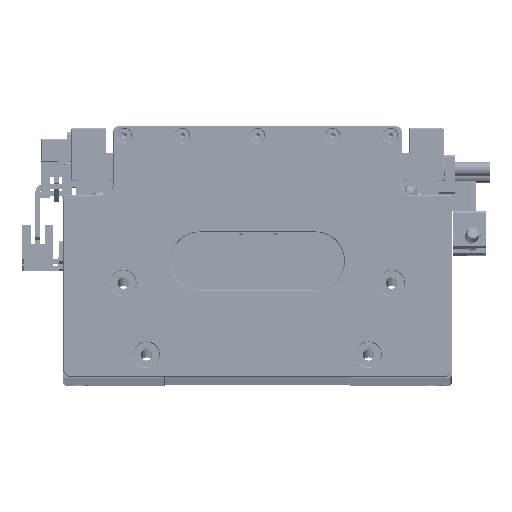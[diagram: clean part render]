
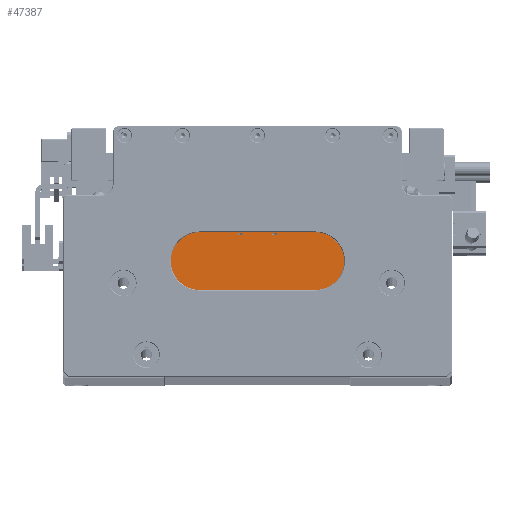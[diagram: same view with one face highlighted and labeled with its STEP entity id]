
A CAD part, top view. The second image highlights one B-rep face of the part: STEP entity #47387.
In plain terms, the highlighted planar face has unit normal (0, 0, 1).
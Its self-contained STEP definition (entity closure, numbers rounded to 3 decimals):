
#328 = ORIENTED_EDGE ( 'NONE', *, *, #107662, .T. ) ;
#2437 = DIRECTION ( 'NONE',  ( 0., 0., -1. ) ) ;
#5915 = CARTESIAN_POINT ( 'NONE',  ( 0., 69., 90. ) ) ;
#6022 = CARTESIAN_POINT ( 'NONE',  ( -45., 61.2, 90. ) ) ;
#6844 = DIRECTION ( 'NONE',  ( 0., -1., 0. ) ) ;
#7821 = VERTEX_POINT ( 'NONE', #141478 ) ;
#10877 = DIRECTION ( 'NONE',  ( 1., 0., 0. ) ) ;
#15269 = LINE ( 'NONE', #59637, #98183 ) ;
#17312 = DIRECTION ( 'NONE',  ( -1., 0., 0. ) ) ;
#17320 = DIRECTION ( 'NONE',  ( 1., 0., 0. ) ) ;
#18909 = CARTESIAN_POINT ( 'NONE',  ( 33.5, 69.2, 90. ) ) ;
#19331 = LINE ( 'NONE', #18909, #105820 ) ;
#19674 = VERTEX_POINT ( 'NONE', #66969 ) ;
#20775 = CARTESIAN_POINT ( 'NONE',  ( -45., 61.2, 90. ) ) ;
#23666 = ORIENTED_EDGE ( 'NONE', *, *, #31345, .T. ) ;
#23932 = VECTOR ( 'NONE', #139195, 1000. ) ;
#25878 = ORIENTED_EDGE ( 'NONE', *, *, #84703, .T. ) ;
#28727 = VECTOR ( 'NONE', #136881, 1000. ) ;
#31345 = EDGE_CURVE ( 'NONE', #7821, #56084, #19331, .T. ) ;
#33893 = VERTEX_POINT ( 'NONE', #39258 ) ;
#33963 = CARTESIAN_POINT ( 'NONE',  ( 45., 61.2, 90. ) ) ;
#34202 = CARTESIAN_POINT ( 'NONE',  ( 0., 61.2, 90. ) ) ;
#35052 = AXIS2_PLACEMENT_3D ( 'NONE', #141288, #84885, #17320 ) ;
#36145 = AXIS2_PLACEMENT_3D ( 'NONE', #146115, #78381, #10877 ) ;
#38036 = LINE ( 'NONE', #74312, #67951 ) ;
#39258 = CARTESIAN_POINT ( 'NONE',  ( -8.75, 61.2, 90. ) ) ;
#40792 = ORIENTED_EDGE ( 'NONE', *, *, #113623, .T. ) ;
#44246 = EDGE_CURVE ( 'NONE', #77639, #7821, #56210, .T. ) ;
#44300 = CARTESIAN_POINT ( 'NONE',  ( -33.5, 69., 90. ) ) ;
#44770 = VERTEX_POINT ( 'NONE', #117673 ) ;
#45580 = VECTOR ( 'NONE', #96150, 1000. ) ;
#47387 = ADVANCED_FACE ( 'NONE', ( #106384, #140056, #109911 ), #129893, .T. ) ;
#48499 = ORIENTED_EDGE ( 'NONE', *, *, #106011, .T. ) ;
#48895 = VERTEX_POINT ( 'NONE', #116096 ) ;
#50062 = VECTOR ( 'NONE', #17312, 1000. ) ;
#51178 = CARTESIAN_POINT ( 'NONE',  ( 8.75, 61.2, 90. ) ) ;
#52416 = EDGE_LOOP ( 'NONE', ( #48499, #328 ) ) ;
#52907 = DIRECTION ( 'NONE',  ( 0., 1., 0. ) ) ;
#53278 = VECTOR ( 'NONE', #64453, 1000. ) ;
#53870 = LINE ( 'NONE', #138683, #23932 ) ;
#56084 = VERTEX_POINT ( 'NONE', #62981 ) ;
#56210 = LINE ( 'NONE', #34202, #142838 ) ;
#59637 = CARTESIAN_POINT ( 'NONE',  ( 45., 61.2, 90. ) ) ;
#59809 = ORIENTED_EDGE ( 'NONE', *, *, #138529, .F. ) ;
#60499 = VERTEX_POINT ( 'NONE', #44300 ) ;
#61063 = VECTOR ( 'NONE', #99662, 1000. ) ;
#62233 = LINE ( 'NONE', #125530, #28727 ) ;
#62981 = CARTESIAN_POINT ( 'NONE',  ( 33.5, 69., 90. ) ) ;
#63340 = VERTEX_POINT ( 'NONE', #51178 ) ;
#64453 = DIRECTION ( 'NONE',  ( -1., 0., 0. ) ) ;
#66280 = ORIENTED_EDGE ( 'NONE', *, *, #108068, .T. ) ;
#66969 = CARTESIAN_POINT ( 'NONE',  ( -6.25, 61.2, 90. ) ) ;
#67334 = CARTESIAN_POINT ( 'NONE',  ( -45., 29., 90. ) ) ;
#67951 = VECTOR ( 'NONE', #6844, 1000. ) ;
#69818 = EDGE_LOOP ( 'NONE', ( #59809, #73336, #23666, #66280, #119523, #40792, #84981, #93753 ) ) ;
#69887 = CARTESIAN_POINT ( 'NONE',  ( -7.5, 61.2, 90. ) ) ;
#70965 = DIRECTION ( 'NONE',  ( 0., -1., 0. ) ) ;
#73336 = ORIENTED_EDGE ( 'NONE', *, *, #44246, .T. ) ;
#73922 = EDGE_CURVE ( 'NONE', #60499, #120775, #62233, .T. ) ;
#74312 = CARTESIAN_POINT ( 'NONE',  ( -45., 69.2, 90. ) ) ;
#77639 = VERTEX_POINT ( 'NONE', #33963 ) ;
#78381 = DIRECTION ( 'NONE',  ( 0., 0., -1. ) ) ;
#80045 = LINE ( 'NONE', #6022, #50062 ) ;
#80998 = CARTESIAN_POINT ( 'NONE',  ( 6.25, 61.2, 90. ) ) ;
#81299 = DIRECTION ( 'NONE',  ( 1., 0., 0. ) ) ;
#83076 = CIRCLE ( 'NONE', #98084, 1.25 ) ;
#84009 = CIRCLE ( 'NONE', #36145, 1.25 ) ;
#84703 = EDGE_CURVE ( 'NONE', #33893, #19674, #83076, .T. ) ;
#84885 = DIRECTION ( 'NONE',  ( 0., 0., 1. ) ) ;
#84981 = ORIENTED_EDGE ( 'NONE', *, *, #106436, .T. ) ;
#93753 = ORIENTED_EDGE ( 'NONE', *, *, #98450, .F. ) ;
#94460 = VERTEX_POINT ( 'NONE', #80998 ) ;
#96150 = DIRECTION ( 'NONE',  ( -1., 0., 0. ) ) ;
#96170 = EDGE_LOOP ( 'NONE', ( #25878, #132589 ) ) ;
#98084 = AXIS2_PLACEMENT_3D ( 'NONE', #69887, #2437, #81299 ) ;
#98183 = VECTOR ( 'NONE', #70965, 1000. ) ;
#98450 = EDGE_CURVE ( 'NONE', #48895, #135226, #53870, .T. ) ;
#99662 = DIRECTION ( 'NONE',  ( -1., 0., 0. ) ) ;
#105820 = VECTOR ( 'NONE', #52907, 1000. ) ;
#105908 = EDGE_CURVE ( 'NONE', #19674, #33893, #124724, .T. ) ;
#106011 = EDGE_CURVE ( 'NONE', #94460, #63340, #84009, .T. ) ;
#106384 = FACE_OUTER_BOUND ( 'NONE', #69818, .T. ) ;
#106436 = EDGE_CURVE ( 'NONE', #44770, #135226, #38036, .T. ) ;
#107662 = EDGE_CURVE ( 'NONE', #63340, #94460, #80045, .T. ) ;
#108068 = EDGE_CURVE ( 'NONE', #56084, #60499, #135722, .T. ) ;
#109911 = FACE_BOUND ( 'NONE', #52416, .T. ) ;
#113154 = DIRECTION ( 'NONE',  ( -1., 0., 0. ) ) ;
#113382 = LINE ( 'NONE', #132218, #53278 ) ;
#113623 = EDGE_CURVE ( 'NONE', #120775, #44770, #113382, .T. ) ;
#116096 = CARTESIAN_POINT ( 'NONE',  ( 45., 29., 90. ) ) ;
#117673 = CARTESIAN_POINT ( 'NONE',  ( -45., 61.2, 90. ) ) ;
#119523 = ORIENTED_EDGE ( 'NONE', *, *, #73922, .T. ) ;
#120775 = VERTEX_POINT ( 'NONE', #136338 ) ;
#124724 = LINE ( 'NONE', #20775, #61063 ) ;
#125530 = CARTESIAN_POINT ( 'NONE',  ( -33.5, 69.2, 90. ) ) ;
#129893 = PLANE ( 'NONE',  #35052 ) ;
#132218 = CARTESIAN_POINT ( 'NONE',  ( 0., 61.2, 90. ) ) ;
#132589 = ORIENTED_EDGE ( 'NONE', *, *, #105908, .T. ) ;
#135226 = VERTEX_POINT ( 'NONE', #67334 ) ;
#135722 = LINE ( 'NONE', #5915, #45580 ) ;
#136338 = CARTESIAN_POINT ( 'NONE',  ( -33.5, 61.2, 90. ) ) ;
#136881 = DIRECTION ( 'NONE',  ( 0., -1., 0. ) ) ;
#138529 = EDGE_CURVE ( 'NONE', #77639, #48895, #15269, .T. ) ;
#138683 = CARTESIAN_POINT ( 'NONE',  ( -45., 29., 90. ) ) ;
#139195 = DIRECTION ( 'NONE',  ( -1., 0., 0. ) ) ;
#140056 = FACE_BOUND ( 'NONE', #96170, .T. ) ;
#141288 = CARTESIAN_POINT ( 'NONE',  ( 0., 69.2, 90. ) ) ;
#141478 = CARTESIAN_POINT ( 'NONE',  ( 33.5, 61.2, 90. ) ) ;
#142838 = VECTOR ( 'NONE', #113154, 1000. ) ;
#146115 = CARTESIAN_POINT ( 'NONE',  ( 7.5, 61.2, 90. ) ) ;
